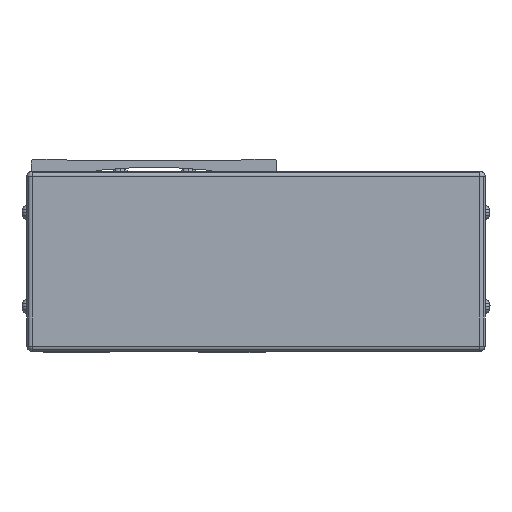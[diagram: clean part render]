
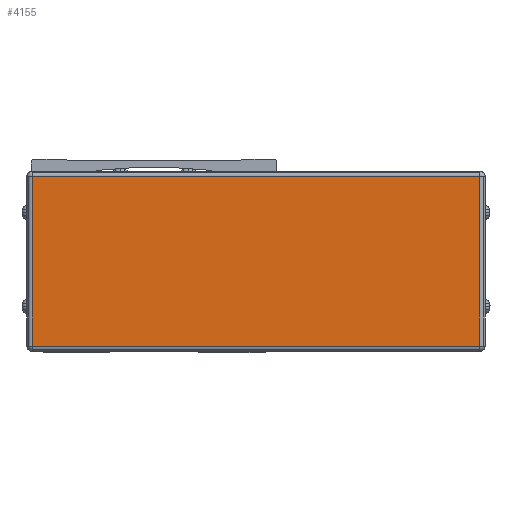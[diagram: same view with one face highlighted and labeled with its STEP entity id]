
A CAD part, front view. The second image highlights one B-rep face of the part: STEP entity #4155.
In plain terms, the highlighted planar face has unit normal (0, -1, 0).
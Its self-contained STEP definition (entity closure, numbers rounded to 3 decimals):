
#4155=ADVANCED_FACE('',(#9060),#9061,.T.);
#9060=FACE_OUTER_BOUND('',#14935,.T.);
#9061=PLANE('',#14936);
#14935=EDGE_LOOP('',(#28664,#28665,#28666,#28667));
#14936=AXIS2_PLACEMENT_3D('',#28668,#28669,#28670);
#28664=ORIENTED_EDGE('',*,*,#37990,.F.);
#28665=ORIENTED_EDGE('',*,*,#40455,.F.);
#28666=ORIENTED_EDGE('',*,*,#40456,.F.);
#28667=ORIENTED_EDGE('',*,*,#36533,.F.);
#28668=CARTESIAN_POINT('',(39.,11.222,-42.5));
#28669=DIRECTION('',(0.0,-1.0,0.0));
#28670=DIRECTION('',(1.0,0.0,0.0));
#36533=EDGE_CURVE('',#43624,#43626,#43627,.T.);
#37990=EDGE_CURVE('',#45954,#43624,#45956,.T.);
#40455=EDGE_CURVE('',#46004,#45954,#49618,.T.);
#40456=EDGE_CURVE('',#43626,#46004,#49619,.T.);
#43624=VERTEX_POINT('',#53947);
#43626=VERTEX_POINT('',#53949);
#43627=LINE('',#53950,#53951);
#45954=VERTEX_POINT('',#57330);
#45956=LINE('',#57332,#57333);
#46004=VERTEX_POINT('',#57403);
#49618=LINE('',#62813,#62814);
#49619=LINE('',#62815,#62816);
#53947=CARTESIAN_POINT('',(-46.7,11.222,-40.5));
#53949=CARTESIAN_POINT('',(-46.7,11.222,24.5));
#53950=CARTESIAN_POINT('',(-46.7,11.222,-42.5));
#53951=VECTOR('',#67943,10.0);
#57330=CARTESIAN_POINT('',(124.7,11.222,-40.5));
#57332=CARTESIAN_POINT('',(39.,11.222,-40.5));
#57333=VECTOR('',#69563,10.0);
#57403=CARTESIAN_POINT('',(124.7,11.222,24.5));
#62813=CARTESIAN_POINT('',(124.7,11.222,-42.5));
#62814=VECTOR('',#72386,10.0);
#62815=CARTESIAN_POINT('',(39.,11.222,24.5));
#62816=VECTOR('',#72387,10.0);
#67943=DIRECTION('',(0.0,0.0,1.0));
#69563=DIRECTION('',(-1.0,0.0,0.0));
#72386=DIRECTION('',(0.0,0.0,-1.0));
#72387=DIRECTION('',(1.0,0.0,0.0));
